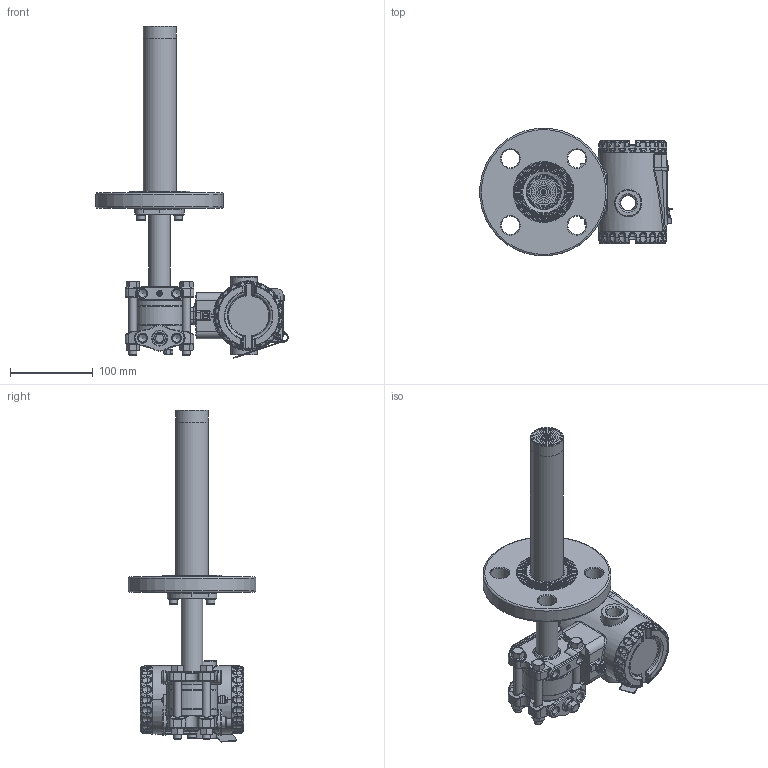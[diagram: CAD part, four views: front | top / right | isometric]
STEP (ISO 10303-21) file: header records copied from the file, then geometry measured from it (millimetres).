
FILE_DESCRIPTION(/* description */ (''),/* implementation_level */ '2;1');
FILE_NAME(/* name */ 'F:\Area\Desenvolvimento_2\Projects\Sensor\projetos\LD400-3d\dimensionais 3D clientes\LD400L\LD400L 1-1-2-300 RF ext 200 ref 1-4NPT purga acima.stp',/* time_stamp */ '2023-02-23T14:54:39-03:00',/* author */ ('inventor02'),/* organization */ (''),/* preprocessor_version */ 'ST-DEVELOPER v17',/* originating_system */ 'Autodesk Inventor 2019',/* authorisation */ '');
FILE_SCHEMA (('CONFIG_CONTROL_DESIGN'));
Products named in the file (41): LD30XL 1-1-2-300 RF ext 200 ref 1-4NPT purga acima; 204-0301-L-1-1-2 300 RF ext 200 purga acima; nivel fx3 com baixa diferencial 1-4NPT purga acima; involucro fx0-3 apos a usinagem final; flange diferencial std purga; 101-C-7484-01 flange selo nivel VR; 201-A-0504-tubo união teste 1; bujao 1-4NPT; Sangria; Porca 3-8 x 16 UNC; Paraf. 3-8 x 16 UNC; adaptação tubo x flanges 1-1-2 a 4pol; 101-B-0161-anel cortado do tubo - teste1; 101-B-0162-flange fixação tubo; ANSI B18.3.1M - M6x1 x 16; DIN 127 - A 6; flange 1-1-2 300 ext 200; 101-B-7699-01 ext 1-1-2-200; 101-B-5190-03; 101-C-3331-02; Carcaça 400 com tampas e plaqueta sem letras; 101-D-0845-05 carcaça LD400 sem letras; 101-B-3614-03-tampa 400 sem letras; Tampa visor 400 montada sem letras; 101-B-3612-05 tampa visor 400 sem letras; 101-A-6107; oring 2034; 00034775-0; WHW_250; DIN 915 - M6 x 10; Chapa aterramento externo; 201-A-1771-02 inserto terra recartilhado; AS 1969 - ST4,2; ISO 1207 - M4 x 8; ANSI B18.3.1M - M4x0,7 x 8; Subconjunto plaqueta 400; plaqueta 400 em branco; Parafuso da Plaqueta; Rebite da Plaqueta; 096-A-0169-03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
Assembly tree (50 placements, depth 4):
  LD30XL 1-1-2-300 RF ext 200 ref 1-4NPT purga acima
    204-0301-L-1-1-2 300 RF ext 200 purga acima
      nivel fx3 com baixa diferencial 1-4NPT purga acima
        involucro fx0-3 apos a usinagem final
        flange diferencial std purga
        101-C-7484-01 flange selo nivel VR
        201-A-0504-tubo união teste 1
        DIN 915 - M6 x 10
        bujao 1-4NPT
        Sangria
        Porca 3-8 x 16 UNC  x4
        Paraf. 3-8 x 16 UNC  x4
      adaptação tubo x flanges 1-1-2 a 4pol
        101-B-0161-anel cortado do tubo - teste1
        101-B-0162-flange fixação tubo
        ANSI B18.3.1M - M6x1 x 16  x2
        DIN 127 - A 6  x2
      flange 1-1-2 300 ext 200
        101-B-7699-01 ext 1-1-2-200
        101-B-5190-03
        101-C-3331-02
    Carcaça 400 com tampas e plaqueta sem letras
      101-D-0845-05 carcaça LD400 sem letras
      101-B-3614-03-tampa 400 sem letras
      Tampa visor 400 montada sem letras
        101-B-3612-05 tampa visor 400 sem letras
        101-A-6107
        oring 2034
        00034775-0
        WHW_250
      DIN 915 - M6 x 10
      Chapa aterramento externo
      201-A-1771-02 inserto terra recartilhado
      AS 1969 - ST4,2
      ISO 1207 - M4 x 8
      ANSI B18.3.1M - M4x0,7 x 8  x2
      Subconjunto plaqueta 400
        plaqueta 400 em branco
        Parafuso da Plaqueta
        Rebite da Plaqueta
        096-A-0169-03
        101-A-0502-01
Bounding box: 232.96 x 154.41 x 402.42 mm (x, y, z)
Volume: 1057118.7 mm3; surface area: 357778.3 mm2
Topology: 43 solids, 43 shells, 2761 faces, 6703 edges, 4023 vertices
Faces by surface type: plane 721, cylinder 664, bspline 605, torus 473, cone 222, sphere 76
Full cylindrical faces by diameter (mm): 2 x4, 2.1 x1, 2.2 x1, 2.459 x3, 2.5 x1, 2.7 x1, 2.8 x1, 3 x4, 3.242 x3, 3.5 x1, 3.571 x1, 4 x5, 4.3 x2, 4.4 x1, 4.917 x4, 5 x1, 5.5 x3, 6 x6, 6.1 x2, 6.2 x1, 6.647 x1, 7 x5, 7.6 x2, 7.798 x4, 8 x1, 9.525 x4, 9.728 x6, 10 x2, 10.5 x8, 10.719 x2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
Entity records: 98556 total; most frequent: CARTESIAN_POINT 37075, DIRECTION 12670, ORIENTED_EDGE 12646, EDGE_CURVE 6323, AXIS2_PLACEMENT_3D 5424, VERTEX_POINT 3829, CIRCLE 3151, EDGE_LOOP 2796
